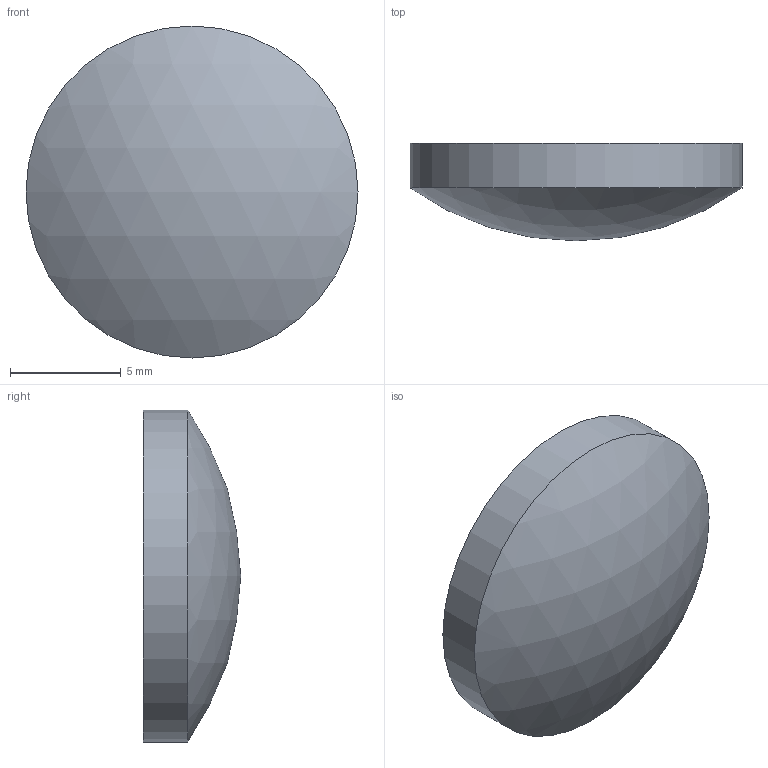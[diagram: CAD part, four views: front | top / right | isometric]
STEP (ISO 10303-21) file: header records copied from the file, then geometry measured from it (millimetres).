
FILE_DESCRIPTION((''),'2;1');
FILE_NAME('Y:\メカ関係\2能登便\素子ﾓﾃﾞﾙ（角屋さま野中さま⇒川島）\5月分\1_球面平凸レンズ-BK7\SLB-P\φ15\SLB-15-25P\SLB-15-25P.stp','2009-05-12T10:17:20',('usernoto011'),(''),'Autodesk Inventor 2008','Autodesk Inventor 2008','');
FILE_SCHEMA(('AUTOMOTIVE_DESIGN { 1 0 10303 214 1 1 1 1 }'));
Length unit declared in the file: millimetre
Products named in the file (1): SLB-15-25P
Bounding box: 15 x 4.4 x 15 mm (x, y, z)
Volume: 573.8 mm3; surface area: 466.2 mm2
Topology: 1 solids, 1 shells, 3 faces, 3 edges, 2 vertices
Faces by surface type: sphere 1, cylinder 1, plane 1
Full cylindrical faces by diameter (mm): 15 x1
Entity records: 80 total; most frequent: DIRECTION 12, CARTESIAN_POINT 8, AXIS2_PLACEMENT_3D 6, ORIENTED_EDGE 4, EDGE_LOOP 4, FACE_OUTER_BOUND 3, ADVANCED_FACE 3, DIMENSIONAL_EXPONENTS 2
